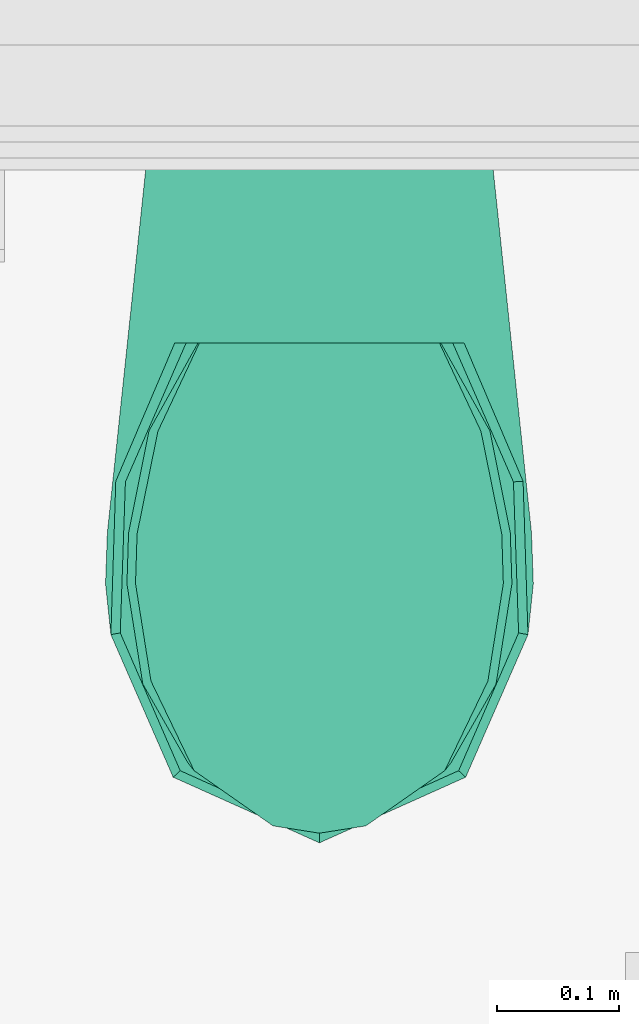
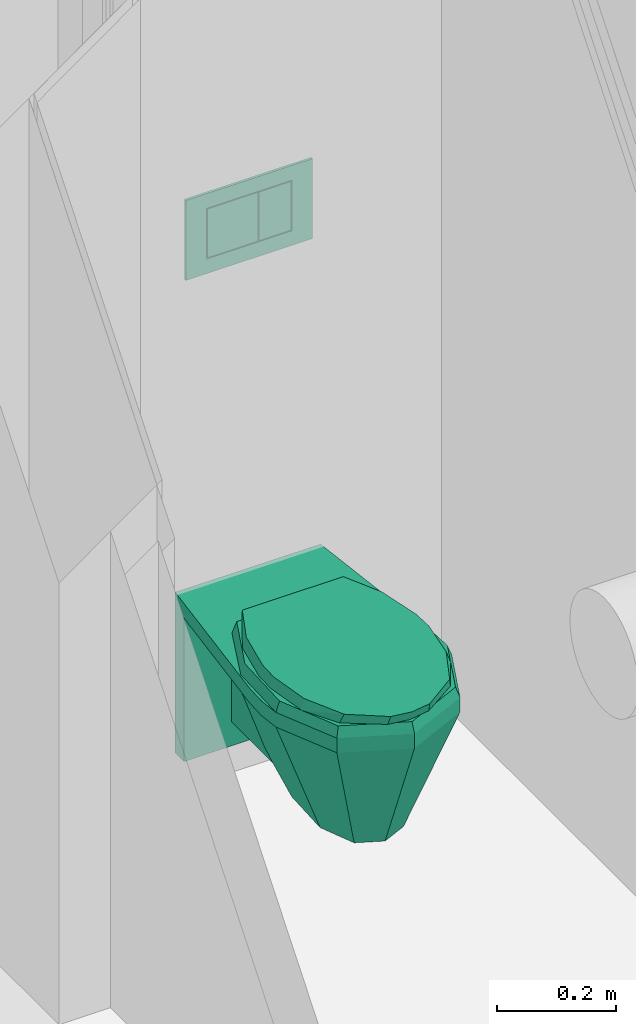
# One storey, part 242 of 301: 1 flow terminal.
"""IFC2X3 building model written with IfcOpenShell, lengths in millimetres."""

from ifc_helpers import new_model, entity, si_unit, converted_unit, derived_unit, money_unit, direction, frame, origin_with_axes, place, context, subcontext, project, spatial, faceted_brep, source, transform, mapped, type_object, element, save


model = new_model("IFC2X3")

# Units and contexts
model_context = context("Model", 3, precision=0.01, world=origin_with_axes(), true_north=direction((0.0, 1.0)))
body_context = subcontext(model_context, "Body", "Model", "MODEL_VIEW")
ifc_project = project(units=[si_unit("LENGTHUNIT", "METRE", prefix="MILLI"), si_unit("AREAUNIT", "SQUARE_METRE"), si_unit("VOLUMEUNIT", "CUBIC_METRE"), converted_unit("PLANEANGLEUNIT", "DEGREE", entity("IfcPlaneAngleMeasure", 0.0174532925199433), si_unit("PLANEANGLEUNIT", "RADIAN"), dimensions=[0, 0, 0, 0, 0, 0, 0]), money_unit("EUR"), converted_unit("TIMEUNIT", "Year", entity("IfcTimeMeasure", 31557600.0), si_unit("TIMEUNIT", "SECOND"), dimensions=[0, 0, 1, 0, 0, 0, 0]), si_unit("MASSUNIT", "GRAM", prefix="KILO"), si_unit("THERMODYNAMICTEMPERATUREUNIT", "DEGREE_CELSIUS"), si_unit("LUMINOUSINTENSITYUNIT", "LUMEN"), si_unit("ENERGYUNIT", "JOULE", prefix="MEGA"), derived_unit("THERMALCONDUCTANCEUNIT", [(si_unit("POWERUNIT", "WATT"), 1), (si_unit("LENGTHUNIT", "METRE"), -1), (si_unit("THERMODYNAMICTEMPERATUREUNIT", "KELVIN"), -1)]), derived_unit("SPECIFICHEATCAPACITYUNIT", [(si_unit("ENERGYUNIT", "JOULE"), 1), (si_unit("MASSUNIT", "GRAM", prefix="KILO"), -1), (si_unit("THERMODYNAMICTEMPERATUREUNIT", "KELVIN"), -1)]), derived_unit("MASSDENSITYUNIT", [(si_unit("MASSUNIT", "GRAM", prefix="KILO"), 1), (si_unit("VOLUMEUNIT", "CUBIC_METRE"), -1)])], contexts=[model_context])

# Site, building, storey
site_placement = place(None, frame((0.0, 0.0, 8650.0), z_axis=(0.0, 0.0, 1.0), x_axis=(1.0, 0.0, 0.0)))
site = spatial("IfcSite", under=ifc_project, at=site_placement, Name="43301:001:0844", CompositionType="ELEMENT")
building_placement = place(site_placement, origin_with_axes())
building = spatial("IfcBuilding", under=site, at=building_placement, Name="Kuressaare Ametikooli tuulikute mehaanikute õppekorpus", CompositionType="ELEMENT")
storey_placement = place(building_placement, origin_with_axes())
storey = spatial("IfcBuildingStorey", under=building, at=storey_placement, Name="1.korrus", CompositionType="ELEMENT", Elevation=0.0)

# Flow terminal
sanitary_terminal_type = type_object("IfcSanitaryTerminalType", Name="WC 27", PredefinedType="NOTDEFINED")
shared_shape = source(origin_with_axes(), body_context, "Body", "Brep", [
    faceted_brep([(141.0283315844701, -29.31865370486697, 69.99999999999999), (-141.0283315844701, -29.31865370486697, 69.99999999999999), (-141.0283315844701, 0.4949050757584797, 69.99999999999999), (141.0283315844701, 0.4949050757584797, 69.99999999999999), (141.0283315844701, -29.31865370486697, 370.0), (-141.0283315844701, -29.31865370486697, 370.0), (-141.0283315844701, 0.4949050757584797, 370.0), (141.0283315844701, 0.4949050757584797, 370.0)], [[[0, 1, 2, 3]], [[1, 0, 4, 5]], [[2, 1, 5, 6]], [[3, 2, 6, 7]], [[0, 3, 7, 4]], [[5, 4, 7, 6]]]),
    faceted_brep([(101.7881776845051, -122.4661491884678, 370.0), (48.96817068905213, -87.43521908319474, 370.0), (48.96817068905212, -29.31865370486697, 370.0), (-48.96817068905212, -29.31865370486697, 370.0), (-48.96817068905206, -87.43521908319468, 370.0), (-101.7881776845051, -122.4661491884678, 370.0), (-164.8111927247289, -257.295981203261, 370.0), (-170.4738719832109, -389.7973742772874, 370.0), (-119.554809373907, -506.3435444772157, 370.0), (0.0, -560.0, 370.0), (119.554809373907, -506.3435444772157, 370.0), (170.4738719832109, -389.7973742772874, 370.0), (164.8111927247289, -257.2969749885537, 370.0), (63.65862189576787, -201.5126978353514, 370.0), (110.2599674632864, -260.6221805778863, 370.0), (127.3172437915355, -341.3672356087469, 370.0), (110.2599674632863, -422.1122906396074, 370.0), (63.65862189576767, -481.2217733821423, 370.0), (0.0, -502.8573456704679, 370.0), (-63.65862189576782, -481.2217733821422, 370.0), (-110.2599674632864, -422.1122906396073, 370.0), (-127.3172437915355, -341.3672356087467, 370.0), (-110.2599674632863, -260.6221805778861, 370.0), (-63.65862189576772, -201.5126978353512, 370.0), (0.0, -179.8771255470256, 370.0), (48.96817068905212, -132.9294031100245, 150.8349994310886), (48.96817068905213, -168.852251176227, 120.0), (48.96817068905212, -29.31865370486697, 120.0), (-48.96817068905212, -29.31865370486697, 120.0), (-48.96817068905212, -132.9294031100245, 150.8349994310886), (-48.96817068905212, -111.9632571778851, 220.0911688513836), (-48.96817068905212, -168.852251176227, 120.0), (-48.96817068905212, -141.8100147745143, 135.0708656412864), (-70.97348723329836, -270.8651255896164, 120.0), (-74.94382651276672, -372.4786779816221, 120.0), (-47.75865687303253, -440.0938417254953, 120.0), (0.0, -461.5278029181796, 120.0), (47.75865687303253, -440.0938417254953, 120.0), (74.94382651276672, -372.4786779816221, 120.0), (70.97348723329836, -270.8651255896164, 120.0), (24.48408534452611, -287.5770287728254, 170.0), (42.4076797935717, -310.311445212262, 170.0), (48.96817068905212, -341.3672356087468, 170.0), (42.40767979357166, -372.4230260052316, 170.0), (24.48408534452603, -395.1574424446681, 170.0), (0.0, -403.4788164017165, 170.0), (-24.48408534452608, -395.1574424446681, 170.0), (-42.40767979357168, -372.4230260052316, 170.0), (-48.96817068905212, -341.3672356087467, 170.0), (-42.40767979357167, -310.3114452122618, 170.0), (-24.48408534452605, -287.5770287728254, 170.0), (0.0, -279.2556548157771, 170.0)], [[[0, 1, 2, 3, 4, 5, 6, 7, 8, 9, 10, 11, 12], [13, 14, 15, 16, 17, 18, 19, 20, 21, 22, 23, 24]], [[0, 25, 1]], [[1, 25, 26, 27, 2]], [[3, 2, 27, 28]], [[29, 30, 4, 3, 28, 31, 32]], [[5, 4, 30]], [[5, 29, 32, 6]], [[7, 6, 33]], [[8, 7, 34]], [[9, 8, 35]], [[10, 9, 36]], [[11, 10, 37]], [[12, 11, 38]], [[0, 12, 39]], [[14, 13, 40, 41]], [[15, 14, 41, 42]], [[16, 15, 42, 43]], [[17, 16, 43, 44]], [[18, 17, 44, 45]], [[19, 18, 45, 46]], [[20, 19, 46, 47]], [[21, 20, 47, 48]], [[22, 21, 48, 49]], [[23, 22, 49, 50]], [[24, 23, 50, 51]], [[13, 24, 51, 40]], [[39, 26, 25, 0]], [[33, 31, 28, 27, 26, 39, 38, 37, 36, 35, 34]], [[5, 30, 29]], [[6, 32, 31, 33]], [[34, 7, 33]], [[35, 8, 34]], [[36, 9, 35]], [[37, 10, 36]], [[38, 11, 37]], [[39, 12, 38]], [[40, 51, 50, 49, 48, 47, 46, 45, 44, 43, 42, 41]]]),
    faceted_brep([(-174.8222455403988, -348.2949128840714, 370.0), (-173.3473242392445, -306.5847503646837, 370.0), (-140.9734872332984, 0.0, 370.0), (140.975445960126, 0.0, 370.0), (173.3473242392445, -306.5847503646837, 370.0), (174.8222455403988, -348.2949128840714, 370.0), (170.4738719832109, -389.7973742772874, 370.0), (119.554809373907, -506.3435444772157, 370.0), (0.0, -560.0, 370.0), (-119.554809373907, -506.3435444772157, 370.0), (-170.4738719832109, -389.7973742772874, 370.0), (83.6883665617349, -472.7512164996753, 370.0), (119.3317103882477, -391.1688973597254, 370.0), (122.3755718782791, -362.1171743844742, 370.0), (121.3431269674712, -332.9200606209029, 370.0), (98.68281217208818, -201.7886999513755, 370.0), (-98.68144106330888, -201.7886999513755, 370.0), (-121.3431269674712, -332.9200606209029, 370.0), (-122.3755718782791, -362.1171743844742, 370.0), (-119.3317103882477, -391.1688973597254, 370.0), (-83.6883665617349, -472.7512164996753, 370.0), (0.0, -510.3107353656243, 370.0), (-173.3473242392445, -306.5847503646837, 400.0), (-174.8222455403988, -348.2949128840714, 400.0), (-140.9734872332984, 0.0, 400.0), (140.975445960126, 0.0, 400.0), (173.3473242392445, -306.5847503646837, 400.0), (174.8222455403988, -348.2949128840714, 400.0), (170.4738719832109, -389.7973742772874, 400.0), (119.554809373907, -506.3435444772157, 400.0), (0.0, -560.0, 400.0), (-119.554809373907, -506.3435444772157, 400.0), (-170.4738719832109, -389.7973742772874, 400.0), (83.6883665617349, -472.7512164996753, 400.0), (119.3317103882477, -391.1688973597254, 400.0), (122.3755718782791, -362.1171743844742, 400.0), (121.3431269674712, -332.9200606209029, 400.0), (98.68281217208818, -201.7886999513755, 400.0), (-98.68144106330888, -201.7886999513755, 400.0), (-121.3431269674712, -332.9200606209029, 400.0), (-122.3755718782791, -362.1171743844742, 400.0), (-119.3317103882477, -391.1688973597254, 400.0), (-83.6883665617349, -472.7512164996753, 400.0), (0.0, -510.3107353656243, 400.0)], [[[0, 1, 2, 3, 4, 5, 6, 7, 8, 9, 10], [11, 12, 13, 14, 15, 16, 17, 18, 19, 20, 21]], [[22, 1, 0, 23]], [[24, 2, 1, 22]], [[25, 3, 2, 24]], [[26, 4, 3, 25]], [[27, 5, 4, 26]], [[28, 6, 5, 27]], [[29, 7, 6, 28]], [[30, 8, 7, 29]], [[31, 9, 8, 30]], [[32, 10, 9, 31]], [[23, 0, 10, 32]], [[33, 34, 12, 11]], [[34, 35, 13, 12]], [[35, 36, 14, 13]], [[36, 37, 15, 14]], [[37, 38, 16, 15]], [[38, 39, 17, 16]], [[39, 40, 18, 17]], [[40, 41, 19, 18]], [[41, 42, 20, 19]], [[42, 43, 21, 20]], [[43, 33, 11, 21]], [[24, 22, 23, 32, 31, 30, 29, 28, 27, 26, 25], [37, 36, 35, 34, 33, 43, 42, 41, 40, 39, 38]]]),
    faceted_brep([(170.4738719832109, -389.7973742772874, 400.0), (119.554809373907, -506.3435444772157, 400.0), (0.0, -560.0, 400.0), (-119.554809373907, -506.3435444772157, 400.0), (-170.4738719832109, -389.7973742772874, 400.0), (-166.4663168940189, -264.4263906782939, 400.0), (-118.2121021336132, -151.3163525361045, 400.0), (118.2121021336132, -151.3163525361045, 400.0), (166.4663168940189, -264.4263906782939, 400.0), (87.07689659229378, -411.9963613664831, 400.0), (94.51085540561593, -382.2763031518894, 400.0), (97.71606496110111, -351.7983255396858, 400.0), (96.61425296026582, -320.7429308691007, 400.0), (90.99294096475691, -286.7942733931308, 400.0), (81.32886310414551, -253.3381075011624, 400.0), (68.75448552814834, -223.4663237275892, 400.0), (-68.75412876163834, -223.4663237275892, 400.0), (-81.3289539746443, -253.3384220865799, 400.0), (-90.99294096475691, -286.7942733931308, 400.0), (-96.61425296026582, -320.7429308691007, 400.0), (-97.71606496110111, -351.7983255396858, 400.0), (-94.51085540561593, -382.2763031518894, 400.0), (-87.07689659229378, -411.9963613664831, 400.0), (-76.4888004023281, -438.0775703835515, 400.0), (-62.06856874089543, -459.4262123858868, 400.0), (-44.26109835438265, -474.4067566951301, 400.0), (-23.02579943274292, -483.9023013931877, 400.0), (0.0, -487.1544663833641, 400.0), (23.02579943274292, -483.9023013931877, 400.0), (44.26109835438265, -474.4067566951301, 400.0), (62.06856874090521, -459.4262123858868, 400.0), (76.4888004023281, -438.0775703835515, 400.0), (162.8034977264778, -388.4070686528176, 420.0000000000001), (113.7912556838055, -501.0248055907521, 420.0000000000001), (0.0, -552.0944379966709, 420.0000000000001), (-113.7912556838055, -501.0248055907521, 420.0000000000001), (-162.8034977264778, -388.4070686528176, 420.0000000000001), (-158.5902763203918, -264.9332211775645, 420.0000000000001), (-108.940468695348, -151.3163525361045, 420.0000000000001), (108.940468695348, -151.3163525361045, 420.0000000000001), (158.5902763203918, -264.9332211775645, 420.0000000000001), (87.07689659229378, -411.9963613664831, 420.0000000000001), (94.51085540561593, -382.2763031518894, 420.0000000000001), (97.71606496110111, -351.7983255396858, 420.0000000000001), (96.61425296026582, -320.7429308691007, 420.0000000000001), (90.99294096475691, -286.7942733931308, 420.0000000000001), (81.32886310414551, -253.3381075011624, 420.0000000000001), (68.75448552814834, -223.4663237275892, 420.0000000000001), (-68.75412876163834, -223.4663237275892, 420.0000000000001), (-81.3289539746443, -253.3384220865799, 420.0000000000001), (-90.99294096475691, -286.7942733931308, 420.0000000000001), (-96.61425296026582, -320.7429308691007, 420.0000000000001), (-97.71606496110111, -351.7983255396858, 420.0000000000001), (-94.51085540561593, -382.2763031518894, 420.0000000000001), (-87.07689659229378, -411.9963613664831, 420.0000000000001), (-76.4888004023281, -438.0775703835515, 420.0000000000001), (-62.06856874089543, -459.4262123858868, 420.0000000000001), (-44.26109835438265, -474.4067566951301, 420.0000000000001), (-23.02579943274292, -483.9023013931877, 420.0000000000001), (0.0, -487.1544663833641, 420.0000000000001), (23.02579943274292, -483.9023013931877, 420.0000000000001), (44.26109835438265, -474.4067566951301, 420.0000000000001), (62.06856874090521, -459.4262123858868, 420.0000000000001), (76.4888004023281, -438.0775703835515, 420.0000000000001)], [[[0, 1, 2, 3, 4, 5, 6, 7, 8], [9, 10, 11, 12, 13, 14, 15, 16, 17, 18, 19, 20, 21, 22, 23, 24, 25, 26, 27, 28, 29, 30, 31]], [[1, 0, 32]], [[2, 1, 33]], [[3, 2, 34]], [[4, 3, 35]], [[5, 4, 36]], [[6, 5, 37]], [[6, 38, 39, 7]], [[8, 7, 39]], [[0, 8, 40]], [[41, 42, 10, 9]], [[42, 43, 11, 10]], [[43, 44, 12, 11]], [[44, 45, 13, 12]], [[45, 46, 14, 13]], [[46, 47, 15, 14]], [[47, 48, 16, 15]], [[48, 49, 17, 16]], [[49, 50, 18, 17]], [[50, 51, 19, 18]], [[51, 52, 20, 19]], [[52, 53, 21, 20]], [[53, 54, 22, 21]], [[54, 55, 23, 22]], [[55, 56, 24, 23]], [[56, 57, 25, 24]], [[57, 58, 26, 25]], [[58, 59, 27, 26]], [[59, 60, 28, 27]], [[60, 61, 29, 28]], [[61, 62, 30, 29]], [[62, 63, 31, 30]], [[63, 41, 9, 31]], [[0, 40, 32]], [[1, 32, 33]], [[2, 33, 34]], [[3, 34, 35]], [[4, 35, 36]], [[5, 36, 37]], [[6, 37, 38]], [[38, 37, 36, 35, 34, 33, 32, 40, 39], [45, 44, 43, 42, 41, 63, 62, 61, 60, 59, 58, 57, 56, 55, 54, 53, 52, 51, 50, 49, 48, 47, 46]], [[8, 39, 40]]]),
    faceted_brep([(-107.5993284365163, -494.4181209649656, 420.0000000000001), (-39.85813221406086, -538.8154789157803, 420.0000000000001), (-37.93662119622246, -546.1188070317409, 440.0000000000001), (-144.3504302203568, -430.2603362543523, 420.0000000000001), (-157.3400209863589, -348.2949128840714, 420.0000000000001), (-156.01259181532, -306.5847503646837, 420.0000000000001), (-139.3844700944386, -223.3443004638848, 420.0000000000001), (-99.17339219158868, -151.3163525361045, 420.0000000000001), (99.17339219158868, -151.3163525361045, 420.0000000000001), (139.3844700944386, -223.3443004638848, 420.0000000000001), (156.01259181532, -306.5847503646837, 420.0000000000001), (157.3400209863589, -348.2949128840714, 420.0000000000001), (144.3513116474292, -430.2603362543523, 420.0000000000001), (107.5993284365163, -494.4181209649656, 420.0000000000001), (39.85813221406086, -538.8154789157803, 420.0000000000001), (0.0, -545.0932206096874, 420.0000000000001), (0.0, -552.0944379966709, 440.0000000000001), (-102.412130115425, -501.0248055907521, 440.0000000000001), (-137.6912486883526, -427.7848170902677, 440.0000000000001), (-150.3317943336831, -348.0176467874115, 440.0000000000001), (-149.0405036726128, -307.4274802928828, 440.0000000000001), (-132.0192654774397, -223.5758524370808, 440.0000000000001), (-98.04642182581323, -151.3163525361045, 440.0000000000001), (98.04642182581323, -151.3163525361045, 440.0000000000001), (132.0192654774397, -223.5758524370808, 440.0000000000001), (149.0405036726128, -307.4274802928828, 440.0000000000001), (150.3317943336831, -348.0176467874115, 440.0000000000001), (137.6912486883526, -427.7848170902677, 440.0000000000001), (102.412130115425, -501.0248055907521, 440.0000000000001), (37.93662119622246, -546.1188070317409, 440.0000000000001)], [[[0, 1, 2]], [[0, 3, 4, 5, 6, 7, 8, 9, 10, 11, 12, 13, 14, 15, 1]], [[1, 16, 2]], [[0, 2, 17]], [[3, 0, 17]], [[4, 3, 18]], [[5, 4, 19]], [[6, 5, 20]], [[7, 6, 21]], [[8, 7, 22, 23]], [[9, 8, 23]], [[10, 9, 24]], [[11, 10, 25]], [[12, 11, 26]], [[13, 12, 27]], [[14, 13, 28]], [[15, 14, 29]], [[1, 15, 16]], [[17, 2, 16, 29, 28, 27, 26, 25, 24, 23, 22, 21, 20, 19, 18]], [[3, 17, 18]], [[4, 18, 19]], [[5, 19, 20]], [[6, 20, 21]], [[7, 21, 22]], [[9, 23, 24]], [[10, 24, 25]], [[11, 25, 26]], [[12, 26, 27]], [[13, 27, 28]], [[14, 28, 29]], [[15, 29, 16]]]),
    faceted_brep([(-83.0, 0.0, 1036.0), (-83.0, 0.0, 1170.0), (-83.0, -4.999999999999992, 1170.0), (-83.0, -5.0, 1036.0), (-123.0, 0.0, 1036.0), (-123.0, 0.0, 1200.0), (123.0, 0.0, 1200.0), (123.0, 0.0, 1036.0), (83.0, 0.0, 1036.0), (83.0, 0.0, 1170.0), (83.0, -4.999999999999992, 1170.0), (83.0, -5.0, 1036.0), (123.0, -5.0, 1036.0), (123.0, -4.999999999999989, 1200.0), (-123.0, -4.999999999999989, 1200.0), (-123.0, -5.0, 1036.0)], [[[0, 1, 2, 3]], [[0, 4, 5, 6, 7, 8, 9, 1]], [[1, 9, 10, 2]], [[3, 2, 10, 11, 12, 13, 14, 15]], [[4, 0, 3, 15]], [[5, 4, 15, 14]], [[6, 5, 14, 13]], [[7, 6, 13, 12]], [[8, 7, 12, 11]], [[9, 8, 11, 10]]]),
    faceted_brep([(83.0, 0.0, 1036.0), (83.0, 0.0, 1066.0), (83.0, -4.999999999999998, 1066.0), (83.0, -5.0, 1036.0), (-83.0, 0.0, 1036.0), (-83.0, 0.0, 1066.0), (-83.0, -4.999999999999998, 1066.0), (-83.0, -5.0, 1036.0)], [[[0, 1, 2, 3]], [[0, 4, 5, 1]], [[1, 5, 6, 2]], [[3, 2, 6, 7]], [[4, 0, 3, 7]], [[5, 4, 7, 6]]]),
    faceted_brep([(-81.0, 0.0, 1068.0), (17.0, 0.0, 1068.0), (17.0, -4.999999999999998, 1068.0), (-81.0, -4.999999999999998, 1068.0), (-81.0, 0.0, 1168.0), (17.0, 0.0, 1168.0), (17.0, -4.999999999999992, 1168.0), (-81.0, -4.999999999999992, 1168.0)], [[[0, 1, 2, 3]], [[0, 4, 5, 1]], [[1, 5, 6, 2]], [[3, 2, 6, 7]], [[4, 0, 3, 7]], [[5, 4, 7, 6]]]),
    faceted_brep([(19.0, 0.0, 1168.0), (19.0, 0.0, 1068.0), (19.0, -4.999999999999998, 1068.0), (19.0, -4.999999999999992, 1168.0), (81.0, 0.0, 1168.0), (81.0, 0.0, 1068.0), (81.0, -4.999999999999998, 1068.0), (81.0, -4.999999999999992, 1168.0)], [[[0, 1, 2, 3]], [[0, 4, 5, 1]], [[1, 5, 6, 2]], [[3, 2, 6, 7]], [[4, 0, 3, 7]], [[5, 4, 7, 6]]]),
])
flow_terminal_placement = place(storey_placement, frame((101003.6546914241, 25608.13940888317, 0.0), z_axis=(0.0, 0.0, 1.0), x_axis=(0.9999999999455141, 1.043895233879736e-05, 0.0)))
element("IfcFlowTerminal", 1, at=flow_terminal_placement, inside=storey, type_object=sanitary_terminal_type, Name="WC1", context=body_context, shape_type="MappedRepresentation", body=[
    mapped(shared_shape, transform((0.0, 0.0, 0.0))),
])

save(model, "model.ifc")
